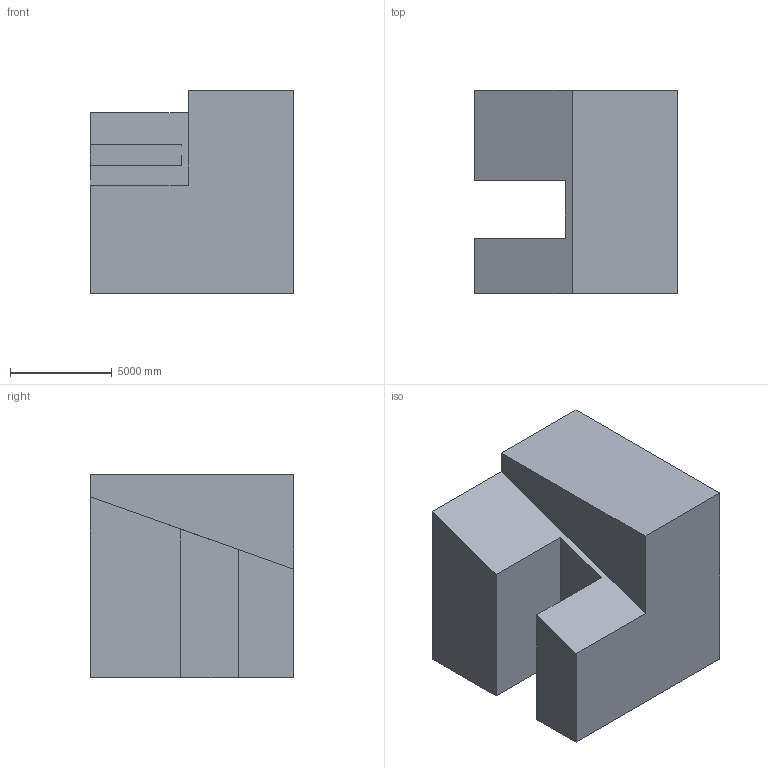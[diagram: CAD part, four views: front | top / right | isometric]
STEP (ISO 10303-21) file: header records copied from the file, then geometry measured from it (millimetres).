
FILE_DESCRIPTION (( 'STEP AP203' ), '1' );
FILE_NAME ('1180.STEP', '2022-08-18T13:04:37', ( 'user' ), ( '' ), 'SwSTEP 2.0', 'SolidWorks 2021', '' );
FILE_SCHEMA (( 'CONFIG_CONTROL_DESIGN' ));
Length unit declared in the file: centimetre
Products named in the file (1): 1180
Bounding box: 10000 x 10000 x 10000 mm (x, y, z)
Volume: 774504706090.7 mm3; surface area: 609919099.6 mm2
Topology: 1 solids, 1 shells, 12 faces, 30 edges, 20 vertices
Faces by surface type: plane 12
Entity records: 431 total; most frequent: CARTESIAN_POINT 63, ORIENTED_EDGE 60, DIRECTION 56, VECTOR 30, EDGE_CURVE 30, LINE 30, VERTEX_POINT 20, AXIS2_PLACEMENT_3D 13
